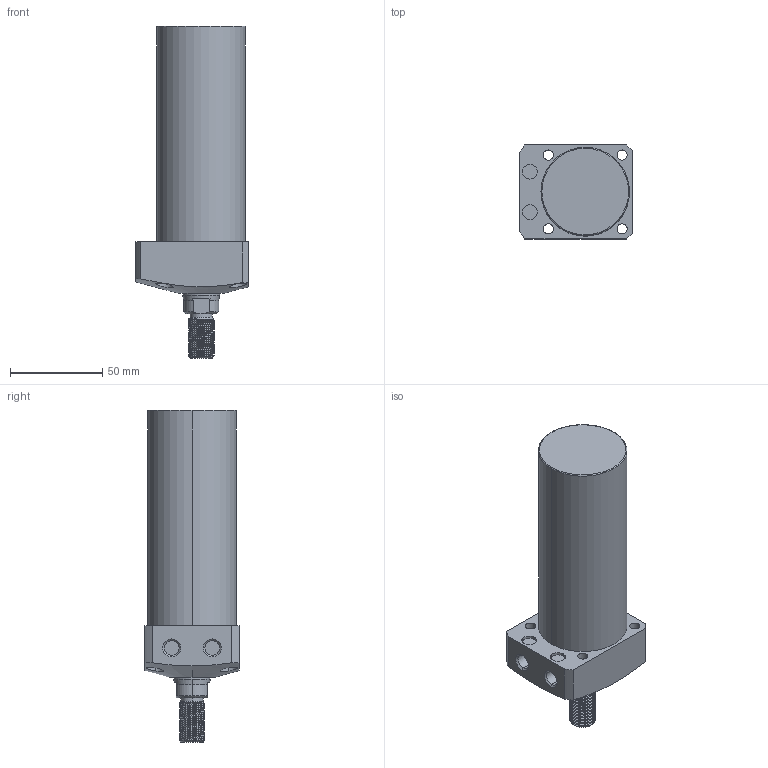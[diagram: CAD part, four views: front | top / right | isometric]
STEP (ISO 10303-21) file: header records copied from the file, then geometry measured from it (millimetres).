
FILE_DESCRIPTION (( 'STEP AP203' ), '1' );
FILE_NAME ('CLL-048CT-090.STEP', '2020-01-08T10:09:21', ( '' ), ( '' ), 'SwSTEP 2.0', 'SolidWorks 2015', '' );
FILE_SCHEMA (( 'CONFIG_CONTROL_DESIGN' ));
Length unit declared in the file: millimetre
Products named in the file (1): CLL-048CT-090
Bounding box: 61 x 51 x 180 mm (x, y, z)
Volume: 290716.1 mm3; surface area: 33696.9 mm2
Topology: 1 solids, 1 shells, 122 faces, 310 edges, 201 vertices
Faces by surface type: cylinder 77, plane 24, cone 17, torus 2, bspline 2
Entity records: 6488 total; most frequent: CARTESIAN_POINT 3687, ORIENTED_EDGE 620, DIRECTION 522, EDGE_CURVE 310, AXIS2_PLACEMENT_3D 206, VERTEX_POINT 201, EDGE_LOOP 141, ADVANCED_FACE 122
